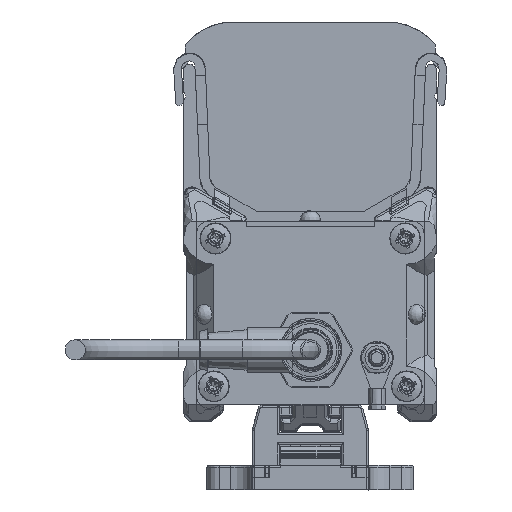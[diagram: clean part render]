
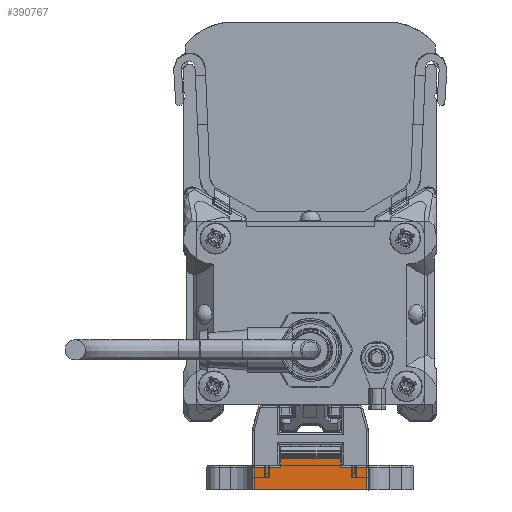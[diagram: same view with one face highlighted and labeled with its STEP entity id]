
A CAD part, left-side view. The second image highlights one B-rep face of the part: STEP entity #390767.
In plain terms, the highlighted planar face has unit normal (-1, 0, 0) as drawn and (1, 0, 0) by its records, which use the part's own axes.
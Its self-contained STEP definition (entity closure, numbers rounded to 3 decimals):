
#145485=ORIENTED_EDGE('',*,*,#205735,.F.);
#145486=ORIENTED_EDGE('',*,*,#205736,.T.);
#145487=ORIENTED_EDGE('',*,*,#205737,.F.);
#145488=ORIENTED_EDGE('',*,*,#205733,.T.);
#145489=ORIENTED_EDGE('',*,*,#205707,.F.);
#145490=ORIENTED_EDGE('',*,*,#205738,.T.);
#145491=ORIENTED_EDGE('',*,*,#205739,.F.);
#145492=ORIENTED_EDGE('',*,*,#205740,.T.);
#176655=VECTOR('',#238179,1.);
#176673=VECTOR('',#238213,1.);
#176674=VECTOR('',#238218,1.);
#176675=VECTOR('',#238219,1.);
#176676=VECTOR('',#238220,1.);
#176677=VECTOR('',#238221,1.);
#176678=VECTOR('',#238222,1.);
#176679=VECTOR('',#238223,1.);
#185842=LINE('',#272859,#176655);
#185860=LINE('',#272950,#176673);
#185861=LINE('',#272955,#176674);
#185862=LINE('',#272957,#176675);
#185863=LINE('',#272958,#176676);
#185864=LINE('',#272960,#176677);
#185865=LINE('',#272962,#176678);
#185866=LINE('',#272963,#176679);
#195158=VERTEX_POINT('',#272856);
#195159=VERTEX_POINT('',#272858);
#195182=VERTEX_POINT('',#272949);
#195183=VERTEX_POINT('',#272953);
#195184=VERTEX_POINT('',#272954);
#195185=VERTEX_POINT('',#272956);
#195186=VERTEX_POINT('',#272959);
#195187=VERTEX_POINT('',#272961);
#205707=EDGE_CURVE('',#195158,#195159,#185842,.T.);
#205733=EDGE_CURVE('',#195182,#195159,#185860,.T.);
#205735=EDGE_CURVE('',#195183,#195184,#185861,.T.);
#205736=EDGE_CURVE('',#195183,#195185,#185862,.T.);
#205737=EDGE_CURVE('',#195182,#195185,#185863,.T.);
#205738=EDGE_CURVE('',#195158,#195186,#185864,.T.);
#205739=EDGE_CURVE('',#195187,#195186,#185865,.T.);
#205740=EDGE_CURVE('',#195187,#195184,#185866,.T.);
#221545=EDGE_LOOP('',(#145485,#145486,#145487,#145488,#145489,#145490,#145491,
#145492));
#229027=FACE_BOUND('',#221545,.T.);
#238179=DIRECTION('',(0.,-26.996,0.));
#238213=DIRECTION('',(0.,0.,-5.5));
#238216=DIRECTION('',(1.,0.,0.));
#238217=DIRECTION('',(0.,-1.,0.));
#238218=DIRECTION('',(0.,14.4,0.));
#238219=DIRECTION('',(0.,0.,-3.1));
#238220=DIRECTION('',(0.,6.298,0.));
#238221=DIRECTION('',(0.,0.,5.5));
#238222=DIRECTION('',(0.,6.298,0.));
#238223=DIRECTION('',(0.,0.,3.1));
#272856=CARTESIAN_POINT('',(96.175,75.88,-3.));
#272858=CARTESIAN_POINT('',(96.175,48.884,-3.));
#272859=CARTESIAN_POINT('',(96.175,75.88,-3.));
#272949=CARTESIAN_POINT('',(96.175,48.884,2.5));
#272950=CARTESIAN_POINT('',(96.175,48.884,2.5));
#272952=CARTESIAN_POINT('',(96.175,55.182,5.6));
#272953=CARTESIAN_POINT('',(96.175,55.182,5.6));
#272954=CARTESIAN_POINT('',(96.175,69.582,5.6));
#272955=CARTESIAN_POINT('',(96.175,55.182,5.6));
#272956=CARTESIAN_POINT('',(96.175,55.182,2.5));
#272957=CARTESIAN_POINT('',(96.175,55.182,5.6));
#272958=CARTESIAN_POINT('',(96.175,48.884,2.5));
#272959=CARTESIAN_POINT('',(96.175,75.88,2.5));
#272960=CARTESIAN_POINT('',(96.175,75.88,-3.));
#272961=CARTESIAN_POINT('',(96.175,69.582,2.5));
#272962=CARTESIAN_POINT('',(96.175,69.582,2.5));
#272963=CARTESIAN_POINT('',(96.175,69.582,2.5));
#376226=AXIS2_PLACEMENT_3D('',#272952,#238216,#238217);
#387764=PLANE('',#376226);
#390767=ADVANCED_FACE('',(#229027),#387764,.T.);
